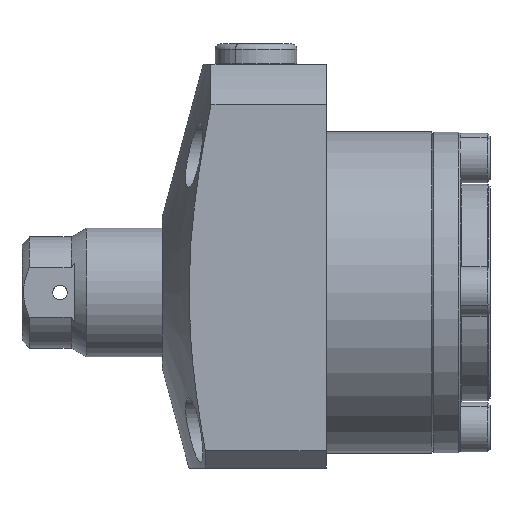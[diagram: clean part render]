
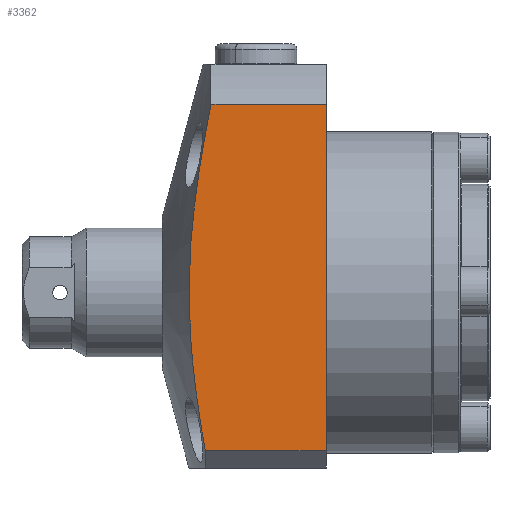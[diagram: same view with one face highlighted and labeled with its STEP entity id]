
A CAD part, left-side view. The second image highlights one B-rep face of the part: STEP entity #3362.
In plain terms, the highlighted planar face has unit normal (-1, 0, 0).
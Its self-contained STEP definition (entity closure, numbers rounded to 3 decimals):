
#282 = EDGE_LOOP ( 'NONE', ( #464, #465, #466, #467 ) ) ;
#464 = ORIENTED_EDGE ( 'NONE', *, *, #1920, .F. ) ;
#465 = ORIENTED_EDGE ( 'NONE', *, *, #791, .T. ) ;
#466 = ORIENTED_EDGE ( 'NONE', *, *, #792, .F. ) ;
#467 = ORIENTED_EDGE ( 'NONE', *, *, #793, .T. ) ;
#571 = LINE ( 'NONE', #577, #3287 ) ;
#575 = CARTESIAN_POINT ( 'NONE',  ( -30., 28., -27. ) ) ;
#576 = DIRECTION ( 'NONE',  ( 0., -1., 0. ) ) ;
#577 = CARTESIAN_POINT ( 'NONE',  ( -30., 0., -30. ) ) ;
#578 = DIRECTION ( 'NONE',  ( 0., 0., -1. ) ) ;
#579 = LINE ( 'NONE', #580, #3267 ) ;
#580 = CARTESIAN_POINT ( 'NONE',  ( -30., 0., 32.187 ) ) ;
#581 = DIRECTION ( 'NONE',  ( 0., 1., 0. ) ) ;
#791 = EDGE_CURVE ( 'NONE', #3913, #3915, #3700, .T. ) ;
#792 = EDGE_CURVE ( 'NONE', #3916, #3915, #571, .T. ) ;
#793 = EDGE_CURVE ( 'NONE', #3916, #3914, #579, .T. ) ;
#1079 = AXIS2_PLACEMENT_3D ( 'NONE', #2446, #2457, #2458 ) ;
#1479 = CARTESIAN_POINT ( 'NONE',  ( -30., 20.669, -27. ) ) ;
#1480 = CARTESIAN_POINT ( 'NONE',  ( -30., 19.694, 32.187 ) ) ;
#1481 = CARTESIAN_POINT ( 'NONE',  ( -30., 0., -27. ) ) ;
#1482 = CARTESIAN_POINT ( 'NONE',  ( -30., 0., 32.187 ) ) ;
#1920 = EDGE_CURVE ( 'NONE', #3913, #3914, #3169, .T. ) ;
#2446 = CARTESIAN_POINT ( 'NONE',  ( -30., 28., 39. ) ) ;
#2454 = FACE_OUTER_BOUND ( 'NONE', #282, .T. ) ;
#2455 = PLANE ( 'NONE',  #1079 ) ;
#2457 = DIRECTION ( 'NONE',  ( 1., 0., 0. ) ) ;
#2458 = DIRECTION ( 'NONE',  ( 0., 0., -1. ) ) ;
#2747 = CARTESIAN_POINT ( 'NONE',  ( -30., 20.669, -27. ) ) ;
#2764 = CARTESIAN_POINT ( 'NONE',  ( -30., 21.108, -24.547 ) ) ;
#2769 = CARTESIAN_POINT ( 'NONE',  ( -30., 21.517, -22.084 ) ) ;
#2770 = CARTESIAN_POINT ( 'NONE',  ( -30., 22.24, -17.157 ) ) ;
#2771 = CARTESIAN_POINT ( 'NONE',  ( -30., 22.553, -14.693 ) ) ;
#2772 = CARTESIAN_POINT ( 'NONE',  ( -30., 23.052, -9.761 ) ) ;
#2773 = CARTESIAN_POINT ( 'NONE',  ( -30., 23.237, -7.293 ) ) ;
#2774 = CARTESIAN_POINT ( 'NONE',  ( -30., 23.447, -2.354 ) ) ;
#2775 = CARTESIAN_POINT ( 'NONE',  ( -30., 23.472, 0.118 ) ) ;
#2776 = CARTESIAN_POINT ( 'NONE',  ( -30., 23.358, 5.065 ) ) ;
#2777 = CARTESIAN_POINT ( 'NONE',  ( -30., 23.219, 7.54 ) ) ;
#2778 = CARTESIAN_POINT ( 'NONE',  ( -30., 22.903, 11.256 ) ) ;
#2779 = CARTESIAN_POINT ( 'NONE',  ( -30., 22.781, 12.495 ) ) ;
#2780 = CARTESIAN_POINT ( 'NONE',  ( -30., 22.504, 14.974 ) ) ;
#2781 = CARTESIAN_POINT ( 'NONE',  ( -30., 22.35, 16.215 ) ) ;
#2782 = CARTESIAN_POINT ( 'NONE',  ( -30., 21.85, 19.927 ) ) ;
#2783 = CARTESIAN_POINT ( 'NONE',  ( -30., 21.466, 22.39 ) ) ;
#2784 = CARTESIAN_POINT ( 'NONE',  ( -30., 20.627, 27.3 ) ) ;
#2785 = CARTESIAN_POINT ( 'NONE',  ( -30., 20.172, 29.746 ) ) ;
#2786 = CARTESIAN_POINT ( 'NONE',  ( -30., 19.694, 32.187 ) ) ;
#3169 = B_SPLINE_CURVE_WITH_KNOTS ( 'NONE', 3,
 ( #2747, #2764, #2769, #2770, #2771, #2772, #2773, #2774, #2775, #2776, #2777, #2778, #2779, #2780, #2781, #2782, #2783, #2784, #2785, #2786 ),
 .UNSPECIFIED., .F., .F.,
 ( 4, 2, 2, 2, 2, 2, 2, 2, 2, 4 ),
 ( 0.034, 0.041, 0.049, 0.056, 0.064, 0.071, 0.075, 0.078, 0.086, 0.093 ),
 .UNSPECIFIED. ) ;
#3254 = VECTOR ( 'NONE', #576, 1000. ) ;
#3267 = VECTOR ( 'NONE', #581, 1000. ) ;
#3287 = VECTOR ( 'NONE', #578, 1000. ) ;
#3362 = ADVANCED_FACE ( 'NONE', ( #2454 ), #2455, .F. ) ;
#3700 = LINE ( 'NONE', #575, #3254 ) ;
#3913 = VERTEX_POINT ( 'NONE', #1479 ) ;
#3914 = VERTEX_POINT ( 'NONE', #1480 ) ;
#3915 = VERTEX_POINT ( 'NONE', #1481 ) ;
#3916 = VERTEX_POINT ( 'NONE', #1482 ) ;
